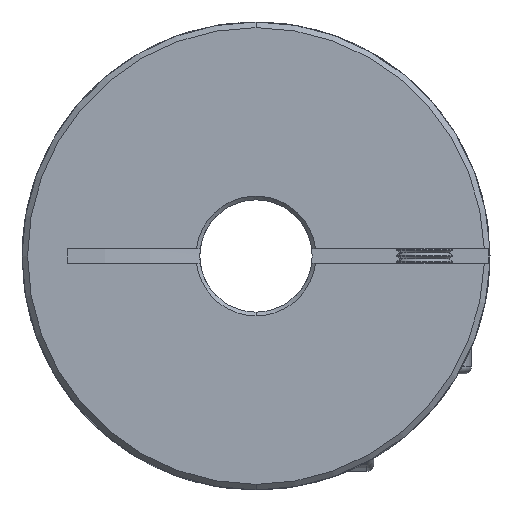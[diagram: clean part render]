
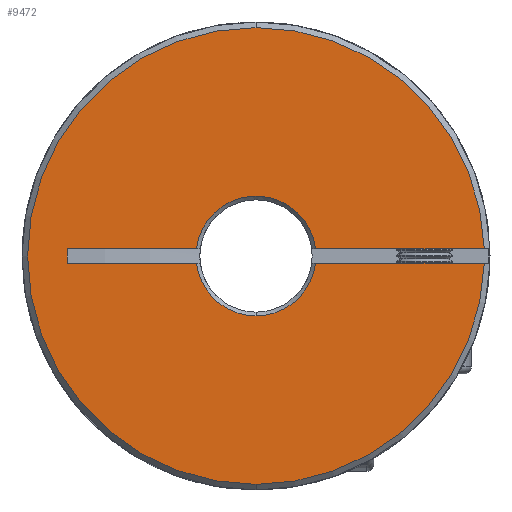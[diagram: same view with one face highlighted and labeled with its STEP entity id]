
A CAD part, front view. The second image highlights one B-rep face of the part: STEP entity #9472.
In plain terms, the highlighted planar face has unit normal (0, -1, 0).
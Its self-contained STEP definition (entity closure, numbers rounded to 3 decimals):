
#51 = DIRECTION ( 'NONE',  ( 0., 0., 1. ) ) ;
#130 = VERTEX_POINT ( 'NONE', #9438 ) ;
#177 = DIRECTION ( 'NONE',  ( 0., -1., 0. ) ) ;
#1085 = CARTESIAN_POINT ( 'NONE',  ( 6.356, 0., -0.75 ) ) ;
#1263 = CARTESIAN_POINT ( 'NONE',  ( 0., 0., 0. ) ) ;
#1486 = DIRECTION ( 'NONE',  ( 0., 1., 0. ) ) ;
#1766 = DIRECTION ( 'NONE',  ( 1., 0., 0. ) ) ;
#2066 = ORIENTED_EDGE ( 'NONE', *, *, #5629, .T. ) ;
#2186 = CARTESIAN_POINT ( 'NONE',  ( -6.356, 0., 0.75 ) ) ;
#2508 = ORIENTED_EDGE ( 'NONE', *, *, #13466, .T. ) ;
#2524 = LINE ( 'NONE', #4617, #17436 ) ;
#2879 = CARTESIAN_POINT ( 'NONE',  ( 0., 0., 0. ) ) ;
#2928 = VERTEX_POINT ( 'NONE', #16453 ) ;
#2990 = VERTEX_POINT ( 'NONE', #2186 ) ;
#3031 = AXIS2_PLACEMENT_3D ( 'NONE', #1263, #10655, #6769 ) ;
#3156 = CARTESIAN_POINT ( 'NONE',  ( -50., 0., -0.75 ) ) ;
#3252 = VECTOR ( 'NONE', #1766, 1000. ) ;
#3367 = VERTEX_POINT ( 'NONE', #12130 ) ;
#3408 = EDGE_CURVE ( 'NONE', #130, #2928, #14508, .T. ) ;
#3441 = ORIENTED_EDGE ( 'NONE', *, *, #14792, .T. ) ;
#3482 = DIRECTION ( 'NONE',  ( 0., 0., 1. ) ) ;
#3964 = VECTOR ( 'NONE', #8588, 1000. ) ;
#4017 = DIRECTION ( 'NONE',  ( 0., -1., 0. ) ) ;
#4161 = ORIENTED_EDGE ( 'NONE', *, *, #5985, .T. ) ;
#4226 = CARTESIAN_POINT ( 'NONE',  ( -50., 0., -0.75 ) ) ;
#4474 = DIRECTION ( 'NONE',  ( 0., 1., 0. ) ) ;
#4529 = VECTOR ( 'NONE', #14943, 1000. ) ;
#4617 = CARTESIAN_POINT ( 'NONE',  ( -50., 0., 0.75 ) ) ;
#5130 = CARTESIAN_POINT ( 'NONE',  ( -50., 0., 32.858 ) ) ;
#5158 = ORIENTED_EDGE ( 'NONE', *, *, #9560, .T. ) ;
#5343 = ORIENTED_EDGE ( 'NONE', *, *, #3408, .F. ) ;
#5519 = ORIENTED_EDGE ( 'NONE', *, *, #14794, .T. ) ;
#5622 = AXIS2_PLACEMENT_3D ( 'NONE', #15510, #11440, #3482 ) ;
#5629 = EDGE_CURVE ( 'NONE', #2990, #8598, #15296, .T. ) ;
#5768 = DIRECTION ( 'NONE',  ( 0., 0., 1. ) ) ;
#5941 = EDGE_CURVE ( 'NONE', #3367, #13634, #6021, .T. ) ;
#5985 = EDGE_CURVE ( 'NONE', #8598, #13616, #10840, .T. ) ;
#6021 = CIRCLE ( 'NONE', #14563, 24.4 ) ;
#6228 = ORIENTED_EDGE ( 'NONE', *, *, #6391, .T. ) ;
#6391 = EDGE_CURVE ( 'NONE', #130, #15244, #11689, .T. ) ;
#6769 = DIRECTION ( 'NONE',  ( 0., 0., 1. ) ) ;
#6786 = CARTESIAN_POINT ( 'NONE',  ( -20.149, 0., -0.75 ) ) ;
#6891 = DIRECTION ( 'NONE',  ( 0., 0., 1. ) ) ;
#7310 = CARTESIAN_POINT ( 'NONE',  ( -50., 0., 0.75 ) ) ;
#7383 = CARTESIAN_POINT ( 'NONE',  ( 24.388, 0., 0.75 ) ) ;
#7457 = DIRECTION ( 'NONE',  ( 1., 0., 0. ) ) ;
#7665 = CARTESIAN_POINT ( 'NONE',  ( 0., 0., -24.4 ) ) ;
#7819 = CIRCLE ( 'NONE', #15053, 6.4 ) ;
#8458 = ORIENTED_EDGE ( 'NONE', *, *, #11483, .T. ) ;
#8588 = DIRECTION ( 'NONE',  ( 1., 0., 0. ) ) ;
#8598 = VERTEX_POINT ( 'NONE', #13365 ) ;
#8840 = ORIENTED_EDGE ( 'NONE', *, *, #11987, .F. ) ;
#9191 = DIRECTION ( 'NONE',  ( 0., 0., 1. ) ) ;
#9365 = CARTESIAN_POINT ( 'NONE',  ( 0., 0., 0. ) ) ;
#9438 = CARTESIAN_POINT ( 'NONE',  ( -20.149, 0., -0.75 ) ) ;
#9472 = ADVANCED_FACE ( 'NONE', ( #14344 ), #13280, .F. ) ;
#9560 = EDGE_CURVE ( 'NONE', #14730, #10670, #7819, .T. ) ;
#9818 = EDGE_LOOP ( 'NONE', ( #8840, #5158, #2508, #5343, #6228, #8458, #2066, #4161, #5519, #11629, #3441 ) ) ;
#10478 = VECTOR ( 'NONE', #12421, 1000. ) ;
#10655 = DIRECTION ( 'NONE',  ( 0., -1., 0. ) ) ;
#10670 = VERTEX_POINT ( 'NONE', #12098 ) ;
#10840 = LINE ( 'NONE', #7310, #3252 ) ;
#10948 = DIRECTION ( 'NONE',  ( 0., 0., 1. ) ) ;
#11440 = DIRECTION ( 'NONE',  ( 0., 1., 0. ) ) ;
#11483 = EDGE_CURVE ( 'NONE', #15244, #2990, #2524, .T. ) ;
#11510 = AXIS2_PLACEMENT_3D ( 'NONE', #9365, #4017, #51 ) ;
#11629 = ORIENTED_EDGE ( 'NONE', *, *, #5941, .T. ) ;
#11689 = LINE ( 'NONE', #6786, #4529 ) ;
#11801 = VERTEX_POINT ( 'NONE', #13624 ) ;
#11987 = EDGE_CURVE ( 'NONE', #14730, #11801, #14503, .T. ) ;
#12022 = CARTESIAN_POINT ( 'NONE',  ( -20.149, 0., 0.75 ) ) ;
#12031 = DIRECTION ( 'NONE',  ( 0., 1., 0. ) ) ;
#12098 = CARTESIAN_POINT ( 'NONE',  ( 0., 0., -6.4 ) ) ;
#12130 = CARTESIAN_POINT ( 'NONE',  ( 0., 0., 24.4 ) ) ;
#12330 = CIRCLE ( 'NONE', #15002, 6.4 ) ;
#12421 = DIRECTION ( 'NONE',  ( 1., 0., 0. ) ) ;
#13280 = PLANE ( 'NONE',  #14054 ) ;
#13354 = CIRCLE ( 'NONE', #11510, 24.4 ) ;
#13365 = CARTESIAN_POINT ( 'NONE',  ( 6.356, 0., 0.75 ) ) ;
#13466 = EDGE_CURVE ( 'NONE', #10670, #2928, #12330, .T. ) ;
#13616 = VERTEX_POINT ( 'NONE', #7383 ) ;
#13624 = CARTESIAN_POINT ( 'NONE',  ( 24.388, 0., -0.75 ) ) ;
#13634 = VERTEX_POINT ( 'NONE', #7665 ) ;
#14054 = AXIS2_PLACEMENT_3D ( 'NONE', #5130, #12031, #9191 ) ;
#14344 = FACE_OUTER_BOUND ( 'NONE', #9818, .T. ) ;
#14503 = LINE ( 'NONE', #3156, #3964 ) ;
#14508 = LINE ( 'NONE', #4226, #10478 ) ;
#14563 = AXIS2_PLACEMENT_3D ( 'NONE', #2879, #177, #10948 ) ;
#14730 = VERTEX_POINT ( 'NONE', #1085 ) ;
#14792 = EDGE_CURVE ( 'NONE', #13634, #11801, #16280, .T. ) ;
#14794 = EDGE_CURVE ( 'NONE', #13616, #3367, #13354, .T. ) ;
#14943 = DIRECTION ( 'NONE',  ( 0., 0., 1. ) ) ;
#15002 = AXIS2_PLACEMENT_3D ( 'NONE', #16483, #4474, #5768 ) ;
#15053 = AXIS2_PLACEMENT_3D ( 'NONE', #15085, #1486, #6891 ) ;
#15085 = CARTESIAN_POINT ( 'NONE',  ( 0., 0., 0. ) ) ;
#15244 = VERTEX_POINT ( 'NONE', #12022 ) ;
#15296 = CIRCLE ( 'NONE', #5622, 6.4 ) ;
#15510 = CARTESIAN_POINT ( 'NONE',  ( 0., 0., 0. ) ) ;
#16280 = CIRCLE ( 'NONE', #3031, 24.4 ) ;
#16453 = CARTESIAN_POINT ( 'NONE',  ( -6.356, 0., -0.75 ) ) ;
#16483 = CARTESIAN_POINT ( 'NONE',  ( 0., 0., 0. ) ) ;
#17436 = VECTOR ( 'NONE', #7457, 1000. ) ;
